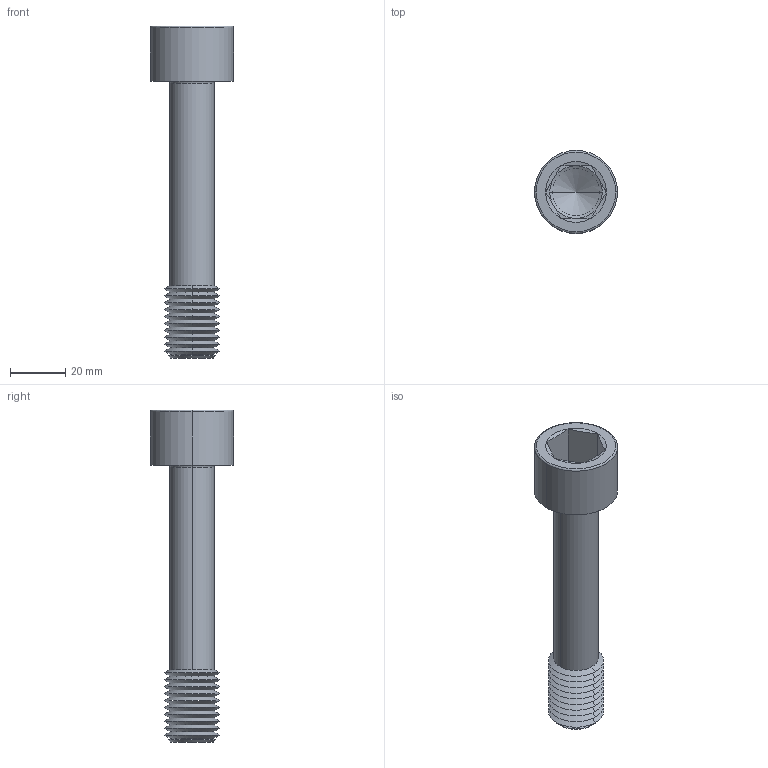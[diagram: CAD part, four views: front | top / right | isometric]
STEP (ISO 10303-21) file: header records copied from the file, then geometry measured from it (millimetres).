
FILE_DESCRIPTION (( 'STEP AP203' ), '1' );
FILE_NAME ('P0154.200-100-BL.step', '2024-06-17T11:40:35', ( '' ), ( '' ), 'SwSTEP 2.0', 'SolidWorks 2019', '' );
FILE_SCHEMA (( 'CONFIG_CONTROL_DESIGN' ));
Length unit declared in the file: millimetre
Products named in the file (1): P0154.200-100-BL
Bounding box: 30 x 30 x 120 mm (x, y, z)
Volume: 29036.9 mm3; surface area: 11141.9 mm2
Topology: 1 solids, 1 shells, 75 faces, 152 edges, 79 vertices
Faces by surface type: cone 52, plane 15, torus 4, cylinder 4
Entity records: 2011 total; most frequent: DIRECTION 372, CARTESIAN_POINT 355, ORIENTED_EDGE 300, AXIS2_PLACEMENT_3D 152, EDGE_CURVE 150, VERTEX_POINT 79, EDGE_LOOP 77, CIRCLE 76
